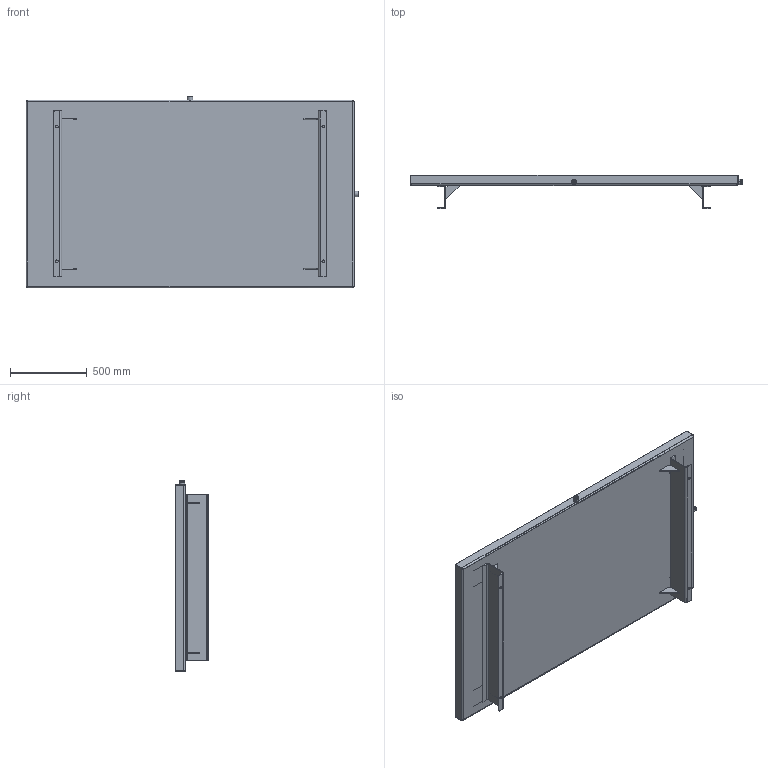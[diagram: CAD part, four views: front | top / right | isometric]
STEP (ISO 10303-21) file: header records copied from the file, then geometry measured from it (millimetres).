
FILE_DESCRIPTION (( 'STEP AP203' ), '1' );
FILE_NAME ('RJDPR200.STEP', '2015-01-07T19:40:01', ( '' ), ( '' ), 'SwSTEP 2.0', 'SolidWorks 2014', '' );
FILE_SCHEMA (( 'CONFIG_CONTROL_DESIGN' ));
Length unit declared in the file: inch
Products named in the file (1): RJDPR200
Bounding box: 2159 x 219.07 x 1244.6 mm (x, y, z)
Volume: 17742536.5 mm3; surface area: 7260791.2 mm2
Topology: 15 solids, 15 shells, 337 faces, 729 edges, 422 vertices
Faces by surface type: plane 130, cone 128, cylinder 69, bspline 10
Entity records: 9794 total; most frequent: CARTESIAN_POINT 2313, DIRECTION 1607, ORIENTED_EDGE 1458, EDGE_CURVE 729, AXIS2_PLACEMENT_3D 586, VECTOR 435, LINE 435, VERTEX_POINT 422
